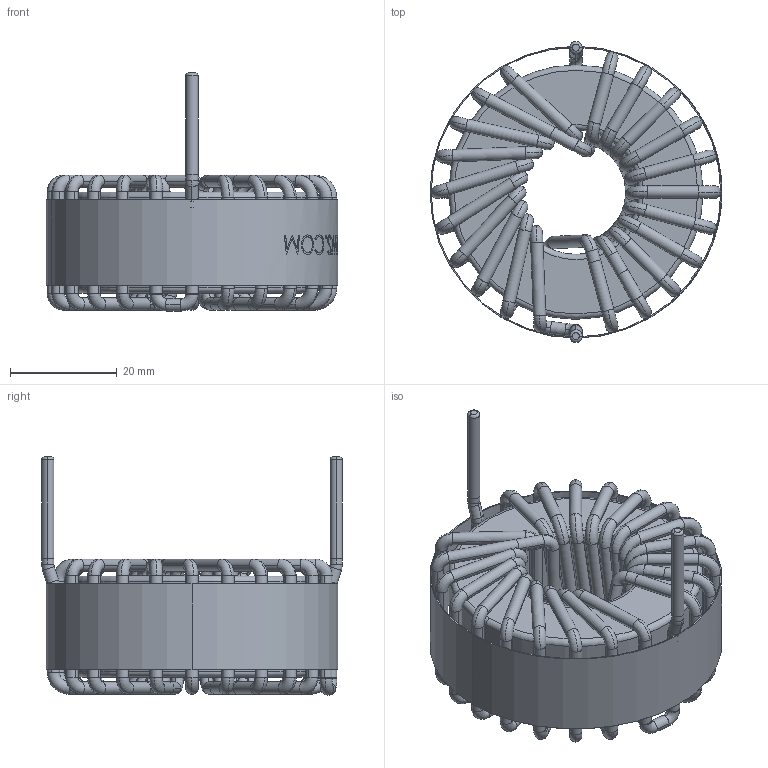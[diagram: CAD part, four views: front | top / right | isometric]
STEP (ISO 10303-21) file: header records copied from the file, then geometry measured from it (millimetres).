
FILE_DESCRIPTION (( 'STEP AP214' ), '1' );
FILE_NAME ('HF467-780M-30AH.STEP', '2021-03-18T11:08:22', ( '' ), ( '' ), 'SwSTEP 2.0', 'SolidWorks 2015', '' );
FILE_SCHEMA (( 'AUTOMOTIVE_DESIGN' ));
Length unit declared in the file: millimetre
Products named in the file (4): HF467-780M-30AH; WRAPPER; CORE; WINDING
Assembly tree (3 placements, depth 2):
  HF467-780M-30AH
    CORE
    WINDING
    WRAPPER
Bounding box: 54.64 x 56.31 x 44.56 mm (x, y, z)
Volume: 26026.6 mm3; surface area: 24503.2 mm2
Topology: 2 solids, 33 shells, 663 faces, 1708 edges, 1126 vertices
Faces by surface type: cylinder 268, torus 192, bspline 103, plane 100
Entity records: 34556 total; most frequent: CARTESIAN_POINT 13761, DIRECTION 3598, ORIENTED_EDGE 3414, EDGE_CURVE 1708, AXIS2_PLACEMENT_3D 1663, VERTEX_POINT 1126, CIRCLE 1096, EDGE_LOOP 683
